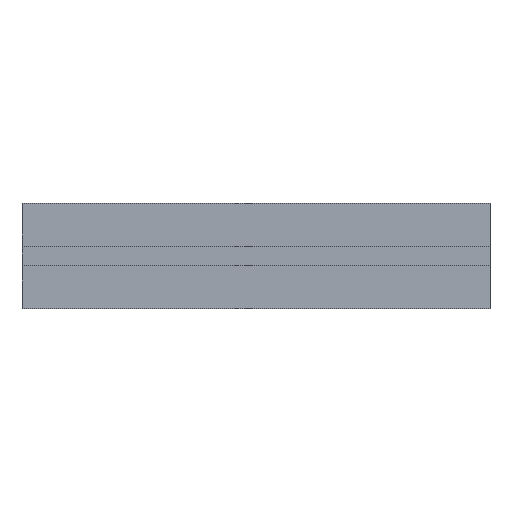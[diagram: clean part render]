
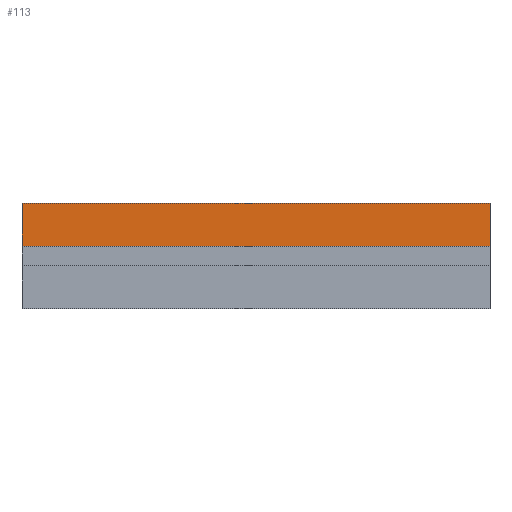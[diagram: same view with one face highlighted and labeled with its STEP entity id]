
A CAD part, top view. The second image highlights one B-rep face of the part: STEP entity #113.
In plain terms, the highlighted planar face has unit normal (0, 0, 1).
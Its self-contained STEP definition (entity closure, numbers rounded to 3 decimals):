
#42 = EDGE_CURVE ( 'NONE', #783, #998, #978, .T. ) ;
#93 = VECTOR ( 'NONE', #112, 1000. ) ;
#102 = LINE ( 'NONE', #186, #725 ) ;
#107 = CARTESIAN_POINT ( 'NONE',  ( 200., 22.464, 9.25 ) ) ;
#112 = DIRECTION ( 'NONE',  ( -1., 0., 0. ) ) ;
#113 = ADVANCED_FACE ( 'NONE', ( #280 ), #180, .F. ) ;
#133 = VECTOR ( 'NONE', #690, 1000. ) ;
#160 = ORIENTED_EDGE ( 'NONE', *, *, #434, .T. ) ;
#180 = PLANE ( 'NONE',  #435 ) ;
#184 = CARTESIAN_POINT ( 'NONE',  ( 200., 19.964, 9.25 ) ) ;
#186 = CARTESIAN_POINT ( 'NONE',  ( 200., 4.114, 9.25 ) ) ;
#217 = ORIENTED_EDGE ( 'NONE', *, *, #591, .F. ) ;
#280 = FACE_OUTER_BOUND ( 'NONE', #515, .T. ) ;
#374 = VECTOR ( 'NONE', #567, 1000. ) ;
#375 = LINE ( 'NONE', #382, #133 ) ;
#382 = CARTESIAN_POINT ( 'NONE',  ( 200., 22.464, 9.25 ) ) ;
#434 = EDGE_CURVE ( 'NONE', #998, #655, #961, .T. ) ;
#435 = AXIS2_PLACEMENT_3D ( 'NONE', #184, #905, #491 ) ;
#436 = ORIENTED_EDGE ( 'NONE', *, *, #42, .T. ) ;
#491 = DIRECTION ( 'NONE',  ( 0., 1., 0. ) ) ;
#515 = EDGE_LOOP ( 'NONE', ( #160, #579, #217, #436 ) ) ;
#567 = DIRECTION ( 'NONE',  ( 0., -1., 0. ) ) ;
#579 = ORIENTED_EDGE ( 'NONE', *, *, #975, .F. ) ;
#591 = EDGE_CURVE ( 'NONE', #783, #977, #375, .T. ) ;
#655 = VERTEX_POINT ( 'NONE', #771 ) ;
#690 = DIRECTION ( 'NONE',  ( 0., -1., 0. ) ) ;
#711 = CARTESIAN_POINT ( 'NONE',  ( 200., 22.464, 9.25 ) ) ;
#725 = VECTOR ( 'NONE', #820, 1000. ) ;
#771 = CARTESIAN_POINT ( 'NONE',  ( 0., 4.114, 9.25 ) ) ;
#783 = VERTEX_POINT ( 'NONE', #711 ) ;
#802 = CARTESIAN_POINT ( 'NONE',  ( 200., 4.114, 9.25 ) ) ;
#820 = DIRECTION ( 'NONE',  ( -1., 0., 0. ) ) ;
#882 = CARTESIAN_POINT ( 'NONE',  ( 0., 19.964, 9.25 ) ) ;
#883 = CARTESIAN_POINT ( 'NONE',  ( 0., 22.464, 9.25 ) ) ;
#905 = DIRECTION ( 'NONE',  ( 0., 0., -1. ) ) ;
#961 = LINE ( 'NONE', #882, #374 ) ;
#975 = EDGE_CURVE ( 'NONE', #977, #655, #102, .T. ) ;
#977 = VERTEX_POINT ( 'NONE', #802 ) ;
#978 = LINE ( 'NONE', #107, #93 ) ;
#998 = VERTEX_POINT ( 'NONE', #883 ) ;
